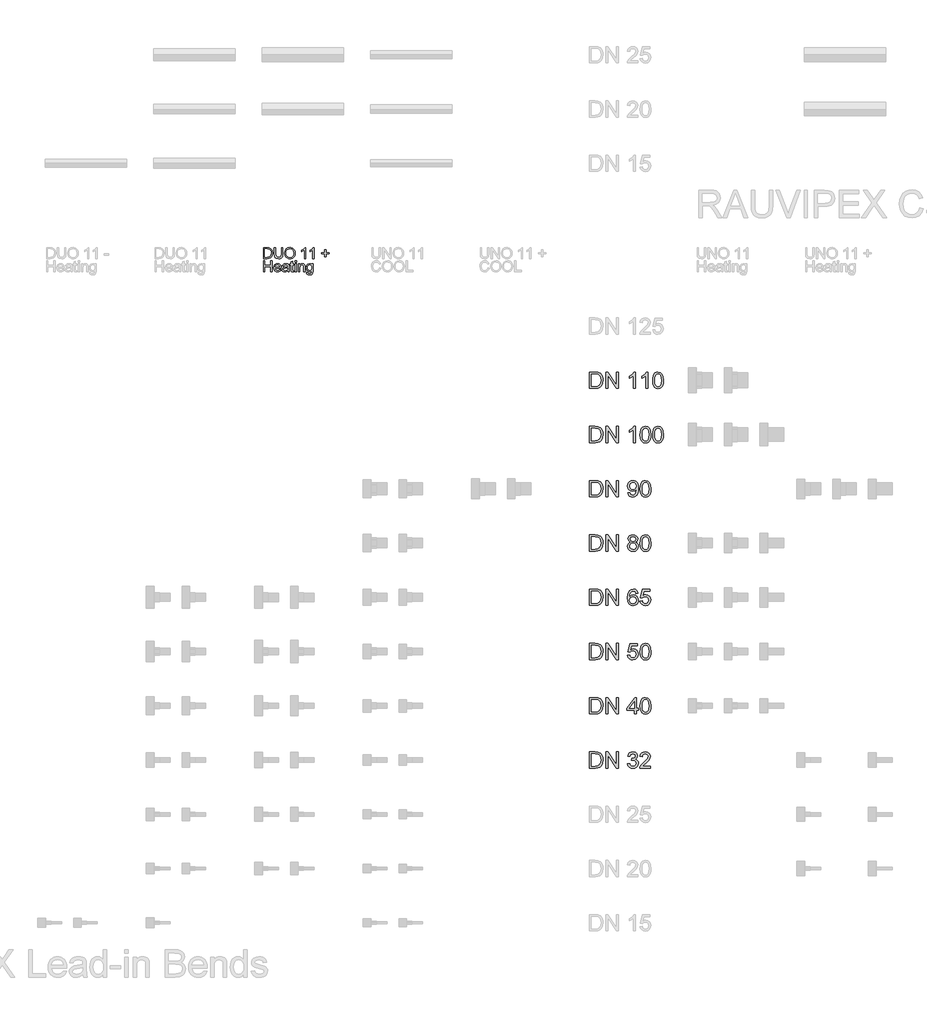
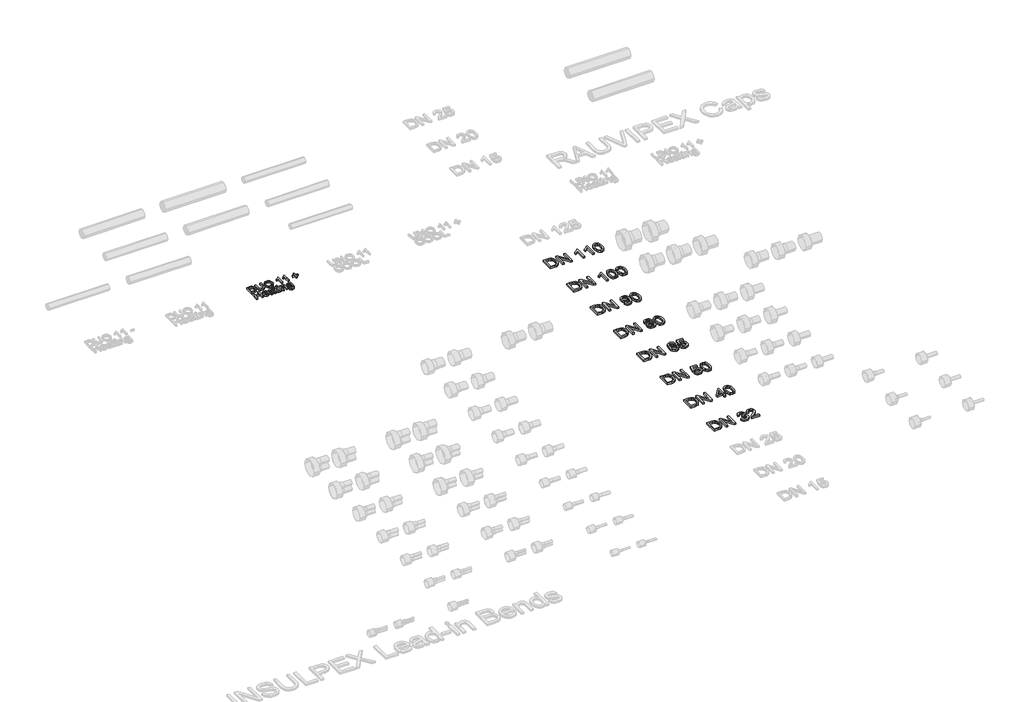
# One storey, part 25 of 44: 9 proxies.
"""IFC4 building model written with IfcOpenShell, lengths in millimetres."""

from ifc_helpers import new_model, si_unit, origin, origin_with_axes, place, context, project, spatial, polyline, outline, extrude, element, save

model = new_model("IFC4")

# Units and contexts
model_context = context("Model", 3, world=origin())
ifc_project = project(units=[si_unit("LENGTHUNIT", "METRE", prefix="MILLI")], contexts=[model_context])

# Site, building, storey
site = spatial("IfcSite", under=ifc_project)
building = spatial("IfcBuilding", under=site)
storey = spatial("IfcBuildingStorey", under=building, Name="REHAU Starting view", Elevation=0.0)

# Proxies
placement = place(None, origin())
element("IfcBuildingElementProxy", 1, Name="100", ObjectType="100", at=placement, inside=storey, context=model_context, shape_type="SweptSolid", body=[
    extrude(outline(polyline([(23010.9874089, 13121.9748178), (23010.9874089, 13222.431128), (23045.6418929, 13222.431128), (23063.5700088, 13220.9841255), (23078.3343395, 13213.7981638), (23090.2291907, 13196.6303374), (23094.1777908, 13172.7425332), (23091.5045149, 13152.4722352), (23084.6373844, 13137.8427946), (23075.4648599, 13128.7315838), (23063.4596442, 13123.6916005), (23047.3096246, 13121.9748178), (23010.9874089, 13121.9748178)]), holes=[polyline([(23023.5444477, 13134.5318566), (23045.7645202, 13134.5318566), (23061.9268025, 13136.3467411), (23071.2464797, 13141.4725636), (23078.8861625, 13153.9437632), (23081.620752, 13172.9387369), (23080.2810484, 13186.6239471), (23076.2619376, 13196.7284393), (23063.2266522, 13207.863001), (23045.4211637, 13209.8740892), (23023.5444477, 13209.8740892), (23023.5444477, 13134.5318566)])]), origin_with_axes(), (0.0, 0.0, 1.0), 20.0),
    extrude(outline(polyline([(23177.3681726, 13222.431128), (23189.9252114, 13222.431128), (23189.9252114, 13164.477451), (23186.5161716, 13140.4547567), (23174.2289129, 13125.9847316), (23163.9650053, 13121.8000739), (23150.9297199, 13120.405188), (23127.9861461, 13125.2612303), (23120.3464634, 13131.2055902), (23115.2574291, 13139.3265853), (23111.4437191, 13164.477451), (23111.4437191, 13222.431128), (23124.0007578, 13222.431128), (23124.0007578, 13164.9189094), (23126.4778299, 13145.7767829), (23134.9881668, 13136.2976902), (23149.7524975, 13132.9622268), (23162.5241341, 13134.6115644), (23171.0160768, 13139.5595772), (23175.7801487, 13149.1980855), (23177.3681726, 13164.9189094), (23177.3681726, 13222.431128)])), origin_with_axes(), (0.0, 0.0, 1.0), 20.0),
    extrude(outline(polyline([(23207.1911397, 13170.8785977), (23210.5388658, 13193.0925389), (23220.5820443, 13209.8986147), (23235.9165921, 13220.4752221), (23255.1384264, 13224.0007578), (23268.3147332, 13222.3452889), (23280.1298766, 13217.3788819), (23289.9400631, 13209.4510249), (23297.1014993, 13198.9112058), (23301.479295, 13186.2683279), (23302.9385603, 13172.0312947), (23301.402653, 13157.6041891), (23296.794931, 13144.7835015), (23289.369846, 13134.2252883), (23279.3818499, 13126.5856055), (23267.667874, 13121.9502924), (23255.06485, 13120.405188), (23241.6862081, 13122.1127736), (23229.8036197, 13127.2355304), (23220.0179586, 13135.3105402), (23212.9300988, 13145.8748848), (23207.1911397, 13170.8785977)]), holes=[polyline([(23219.7481785, 13170.7559704), (23222.2589731, 13155.0412778), (23229.7913569, 13143.0667189), (23241.1129253, 13135.4883498), (23254.9912736, 13132.9622268), (23269.071957, 13135.5128753), (23280.4119195, 13143.1648208), (23287.889121, 13155.5072617), (23290.3815215, 13172.1293965), (23286.1140904, 13192.8534156), (23273.6428907, 13206.575414), (23255.2120028, 13211.4437191), (23241.7046022, 13209.0984714), (23230.2205526, 13202.0627282), (23222.366272, 13189.5455433), (23219.7481785, 13170.7559704)])]), origin_with_axes(), (0.0, 0.0, 1.0), 20.0),
    extrude(outline(polyline([(23401.8252406, 13121.9748178), (23389.2682018, 13121.9748178), (23389.2682018, 13200.2601064), (23377.3733507, 13191.7865578), (23364.1541243, 13185.4467247), (23364.1541243, 13197.3170505), (23382.5604868, 13209.0647488), (23393.7318367, 13222.431128), (23401.8252406, 13222.431128), (23401.8252406, 13121.9748178)])), origin_with_axes(), (0.0, 0.0, 1.0), 20.0),
    extrude(outline(polyline([(23478.7371031, 13121.9748178), (23466.1800643, 13121.9748178), (23466.1800643, 13200.2601064), (23454.2852131, 13191.7865578), (23441.0659868, 13185.4467247), (23441.0659868, 13197.3170505), (23459.4723492, 13209.0647488), (23470.6436992, 13222.431128), (23478.7371031, 13222.431128), (23478.7371031, 13121.9748178)])), origin_with_axes(), (0.0, 0.0, 1.0), 20.0),
    extrude(outline(polyline([(23576.0541535, 13137.6711163), (23576.0541535, 13164.3548237), (23549.3704461, 13164.3548237), (23549.3704461, 13176.9118625), (23576.0541535, 13176.9118625), (23576.0541535, 13203.5955698), (23588.6111923, 13203.5955698), (23588.6111923, 13176.9118625), (23615.2948997, 13176.9118625), (23615.2948997, 13164.3548237), (23588.6111923, 13164.3548237), (23588.6111923, 13137.6711163), (23576.0541535, 13137.6711163)])), origin_with_axes(), (0.0, 0.0, 1.0), 20.0),
    extrude(outline(polyline([(23010.9874089, 13000.0), (23010.9874089, 13100.4563101), (23023.5444477, 13100.4563101), (23023.5444477, 13059.6459342), (23076.9118625, 13059.6459342), (23076.9118625, 13100.4563101), (23089.4689012, 13100.4563101), (23089.4689012, 13000.0), (23076.9118625, 13000.0), (23076.9118625, 13047.0888954), (23023.5444477, 13047.0888954), (23023.5444477, 13000.0), (23010.9874089, 13000.0)])), origin_with_axes(), (0.0, 0.0, 1.0), 20.0),
    extrude(outline(polyline([(23161.5247213, 13021.9748178), (23173.8365055, 13020.405188), (23169.4004617, 13011.1284304), (23162.321799, 13004.1938547), (23152.7599328, 12999.8712413), (23140.8742787, 12998.4303702), (23126.1406048, 13000.9166393), (23114.803708, 13008.3754468), (23107.5748268, 13020.3224146), (23105.1651997, 13036.2731647), (23107.5993522, 13052.7604095), (23114.9018098, 13065.0905877), (23126.0854225, 13072.7793214), (23140.1630402, 13075.3422326), (23153.8022651, 13072.7854527), (23164.7007692, 13065.1151131), (23171.846877, 13052.8094604), (23174.2289129, 13036.3467411), (23174.1553365, 13032.9622268), (23117.7222385, 13032.9622268), (23119.8958079, 13023.5628418), (23124.9449883, 13016.6527916), (23132.2321175, 13012.4037546), (23141.1195333, 13010.9874089), (23153.4313175, 13013.6116338), (23161.5247213, 13021.9748178)]), holes=[polyline([(23117.7222385, 13045.5192655), (23161.6718741, 13045.5192655), (23156.6441535, 13056.8990819), (23149.3233018, 13061.3136659), (23140.1139892, 13062.7851938), (23124.6506827, 13058.088567), (23119.7854433, 13052.5979283), (23117.7222385, 13045.5192655)])]), origin_with_axes(), (0.0, 0.0, 1.0), 20.0),
    extrude(outline(polyline([(23233.8748471, 13009.4177791), (23221.697953, 13000.9074423), (23208.2457347, 12998.4303702), (23197.7519008, 12999.9202922), (23190.0110505, 13004.3900585), (23185.2377816, 13011.1774813), (23183.646692, 13019.6203731), (23186.0501877, 13029.5531869), (23192.3654953, 13036.7636741), (23201.157875, 13040.8839524), (23212.0226566, 13042.7724133), (23233.8012707, 13047.0888954), (23233.8748471, 13049.8847985), (23230.4167563, 13059.1554248), (23216.5353424, 13062.7851938), (23203.8311508, 13060.3694354), (23197.7733606, 13051.7977849), (23185.2163218, 13053.3674148), (23190.6487126, 13065.6301479), (23201.5870706, 13072.8161096), (23218.1540231, 13075.3422326), (23233.372075, 13073.1104152), (23241.968251, 13067.5063461), (23245.8187492, 13058.9837466), (23246.4318858, 13047.9963376), (23246.4318858, 13032.3736156), (23247.069548, 13010.5582133), (23249.5711455, 13000.0), (23237.0141068, 13000.0), (23233.8748471, 13009.4177791)]), holes=[polyline([(23233.8748471, 13034.5318566), (23213.6168119, 13030.6813584), (23202.8133439, 13028.6457447), (23197.9205134, 13025.3348067), (23196.2037308, 13020.5032899), (23199.9438644, 13013.7097357), (23210.9190106, 13010.9874089), (23223.6232021, 13013.9917785), (23231.8147079, 13021.2635793), (23233.8012707, 13030.975664), (23233.8748471, 13034.5318566)])]), origin_with_axes(), (0.0, 0.0, 1.0), 20.0),
    extrude(outline(polyline([(23290.3815215, 13010.4723741), (23291.9511514, 12999.632118), (23282.5578978, 12998.4303702), (23272.0364727, 13000.5150348), (23266.7880229, 13005.9842138), (23265.267444, 13020.2335097), (23265.267444, 13061.215564), (23255.8496649, 13061.215564), (23255.8496649, 13073.7726028), (23265.267444, 13073.7726028), (23265.267444, 13091.7007187), (23277.8244828, 13099.082884), (23277.8244828, 13073.7726028), (23290.3815215, 13073.7726028), (23290.3815215, 13061.215564), (23277.8244828, 13061.215564), (23277.8244828, 13020.6013917), (23278.4866703, 13014.1266686), (23280.6326487, 13011.8335375), (23284.9123425, 13010.9874089), (23290.3815215, 13010.4723741)])), origin_with_axes(), (0.0, 0.0, 1.0), 20.0),
    extrude(outline(polyline([(23302.9385603, 13087.8992714), (23302.9385603, 13100.4563101), (23315.4955991, 13100.4563101), (23315.4955991, 13087.8992714), (23302.9385603, 13087.8992714)])), origin_with_axes(), (0.0, 0.0, 1.0), 20.0),
    extrude(outline(polyline([(23302.9385603, 13000.0), (23302.9385603, 13073.7726028), (23315.4955991, 13073.7726028), (23315.4955991, 13000.0), (23302.9385603, 13000.0)])), origin_with_axes(), (0.0, 0.0, 1.0), 20.0),
    extrude(outline(polyline([(23334.3311572, 13000.0), (23334.3311572, 13073.7726028), (23346.888196, 13073.7726028), (23346.888196, 13063.4719069), (23356.4899161, 13072.3746512), (23369.5987778, 13075.3422326), (23381.4568408, 13072.9509996), (23389.5502447, 13066.6724803), (23393.3149038, 13057.4386422), (23393.9770914, 13045.2985363), (23393.9770914, 13000.0), (23381.4200526, 13000.0), (23381.4200526, 13043.6062792), (23379.9730501, 13054.7163154), (23374.8594904, 13060.5901646), (23366.2387889, 13062.7851938), (23352.6148924, 13057.8555751), (23348.3198701, 13050.712533), (23346.888196, 13039.1426443), (23346.888196, 13000.0), (23334.3311572, 13000.0)])), origin_with_axes(), (0.0, 0.0, 1.0), 20.0),
    extrude(outline(polyline([(23408.10376, 12993.7214806), (23420.6607988, 12992.1518508), (23424.7320262, 12985.5299749), (23436.9211829, 12982.7340717), (23449.7725273, 12985.8978569), (23455.9038939, 12994.7760757), (23456.7622852, 13009.4177791), (23447.9208546, 13002.3544448), (23437.1419121, 13000.0), (23424.1955316, 13002.7407209), (23414.5416949, 13010.9628835), (23408.5360213, 13023.0171502), (23406.5341301, 13037.2541834), (23410.127111, 13056.7151409), (23420.5259087, 13070.4861903), (23436.5287755, 13075.3422326), (23447.7307822, 13072.5953804), (23456.7622852, 13064.3548237), (23456.7622852, 13073.7726028), (23469.319324, 13073.7726028), (23469.319324, 13010.0799667), (23465.8857587, 12985.6893904), (23455.0087144, 12974.3463622), (23436.6759283, 12970.1770329), (23424.9926092, 12971.6454952), (23415.7924937, 12976.0508821), (23409.8910533, 12983.4054563), (23408.10376, 12993.7214806)]), holes=[polyline([(23419.0911689, 13038.1125747), (23420.4308725, 13026.5948026), (23424.4499833, 13018.6761426), (23430.4924451, 13014.0868147), (23437.9022016, 13012.5570388), (23445.2567758, 13014.0776177), (23451.3298944, 13018.6393544), (23455.4041875, 13026.4568468), (23456.7622852, 13037.7446927), (23455.3643336, 13048.6309341), (23451.1704789, 13056.4698863), (23445.0084555, 13061.2063669), (23437.7059979, 13062.7851938), (23430.5353646, 13061.2308924), (23424.5235597, 13056.5679881), (23420.4492666, 13048.8455319), (23419.0911689, 13038.1125747)])]), origin_with_axes(), (0.0, 0.0, 1.0), 20.0),
])
element("IfcBuildingElementProxy", 2, Name="150", ObjectType="150", at=placement, inside=storey, context=model_context, shape_type="SweptSolid", body=[
    extrude(outline(polyline([(26016.4811134, 8425.0), (26016.4811134, 8575.6844652), (26068.4628393, 8575.6844652), (26095.3550131, 8573.5139615), (26117.5015093, 8562.735019), (26127.9217668, 8551.2571007), (26135.343786, 8536.9832793), (26139.7859611, 8520.1894663), (26141.2666861, 8501.151573), (26137.2567724, 8470.7461261), (26126.9560765, 8448.8019651), (26113.1972899, 8435.135149), (26095.1894663, 8427.575174), (26070.9644369, 8425.0), (26016.4811134, 8425.0)]), holes=[polyline([(26035.3166715, 8443.8355582), (26068.6467803, 8443.8355582), (26092.8902038, 8446.5578849), (26106.8697196, 8454.2466186), (26118.3292437, 8472.9534181), (26122.431128, 8501.4458786), (26120.4215726, 8521.9736939), (26114.3929064, 8537.1304321), (26105.4855636, 8547.5414926), (26094.8399784, 8553.8322747), (26068.1317455, 8556.8489071), (26035.3166715, 8556.8489071), (26035.3166715, 8443.8355582)])]), origin_with_axes(), (0.0, 0.0, 1.0), 20.0),
    extrude(outline(polyline([(26167.1655786, 8425.0), (26167.1655786, 8575.6844652), (26187.3255119, 8575.6844652), (26266.0522589, 8456.3067578), (26266.0522589, 8575.6844652), (26284.8878171, 8575.6844652), (26284.8878171, 8425.0), (26264.7278837, 8425.0), (26186.0011368, 8544.4144956), (26186.0011368, 8425.0), (26167.1655786, 8425.0)])), origin_with_axes(), (0.0, 0.0, 1.0), 20.0),
    extrude(outline(polyline([(26369.6478288, 8465.0255611), (26388.4833869, 8467.3800058), (26392.7002343, 8455.5434026), (26398.8760533, 8447.5511663), (26407.3143465, 8442.9986266), (26418.3186167, 8441.4811134), (26431.2312747, 8443.5688437), (26441.2008768, 8449.8320347), (26447.5744324, 8459.1762374), (26449.6989509, 8470.5070028), (26447.5928265, 8481.2629526), (26441.2744532, 8489.9863544), (26431.7095213, 8495.7667003), (26419.8637211, 8497.6934822), (26406.6567575, 8495.6333431), (26408.7536848, 8514.4689012), (26411.7703172, 8514.248172), (26433.1442611, 8519.6560374), (26440.2627777, 8526.5170366), (26442.6356166, 8536.2843035), (26440.9157683, 8544.4190942), (26435.7562233, 8551.0179774), (26427.8835486, 8555.3911747), (26418.0243111, 8556.8489071), (26408.1466795, 8555.3773791), (26400.0716698, 8550.9627951), (26394.1763608, 8543.6051552), (26390.8378317, 8533.3044594), (26372.0022735, 8535.6589041), (26377.5480946, 8552.5722789), (26387.4165291, 8565.1998284), (26400.9177983, 8573.063306), (26417.3621235, 8575.6844652), (26440.0788367, 8570.5157232), (26455.9713389, 8556.3890546), (26461.4711747, 8537.3879495), (26456.2472504, 8520.0239194), (26440.7962066, 8507.5527197), (26452.5868246, 8502.7886479), (26461.324022, 8494.6768499), (26466.7318873, 8483.6587841), (26468.5345091, 8470.175909), (26464.9292655, 8451.8185974), (26454.1135348, 8436.4779182), (26437.7887713, 8426.103646), (26417.6564291, 8422.6455552), (26399.4462704, 8425.5978082), (26384.620626, 8434.4545673), (26374.310733, 8448.0018217), (26369.6478288, 8465.0255611)])), origin_with_axes(), (0.0, 0.0, 1.0), 20.0),
    extrude(outline(polyline([(26581.547858, 8443.8355582), (26581.547858, 8425.0), (26482.6611777, 8425.0), (26484.6845286, 8437.9862344), (26496.1256587, 8457.9806209), (26519.7068946, 8479.8144173), (26552.227663, 8511.1947515), (26558.325307, 8522.0104821), (26560.3578551, 8532.5319072), (26558.4402702, 8541.9634818), (26552.6875155, 8549.8039669), (26543.844552, 8555.087672), (26532.6563408, 8556.8489071), (26520.9071096, 8555.1290587), (26511.7790376, 8549.9695138), (26505.8883271, 8541.7749423), (26503.8511806, 8530.9500146), (26485.0156224, 8533.3044594), (26489.5819577, 8551.5238152), (26499.4549908, 8564.8319464), (26514.1196868, 8572.9713355), (26533.061011, 8575.6844652), (26552.140291, 8572.6678329), (26566.7773959, 8563.6179358), (26576.0894089, 8550.0982725), (26579.1934132, 8533.6723414), (26575.8456871, 8515.8116705), (26564.7172567, 8497.3439944), (26537.7331123, 8471.5370724), (26516.0648628, 8453.4188841), (26507.5667887, 8443.8355582), (26581.547858, 8443.8355582)])), origin_with_axes(), (0.0, 0.0, 1.0), 20.0),
])
element("IfcBuildingElementProxy", 3, Name="150", ObjectType="150", at=placement, inside=storey, context=model_context, shape_type="SweptSolid", body=[
    extrude(outline(polyline([(26016.4811134, 8925.0), (26016.4811134, 9075.6844652), (26068.4628393, 9075.6844652), (26095.3550131, 9073.5139615), (26117.5015093, 9062.735019), (26127.9217668, 9051.2571007), (26135.343786, 9036.9832793), (26139.7859611, 9020.1894663), (26141.2666861, 9001.151573), (26137.2567724, 8970.7461261), (26126.9560765, 8948.8019651), (26113.1972899, 8935.135149), (26095.1894663, 8927.575174), (26070.9644369, 8925.0), (26016.4811134, 8925.0)]), holes=[polyline([(26035.3166715, 8943.8355582), (26068.6467803, 8943.8355582), (26092.8902038, 8946.5578849), (26106.8697196, 8954.2466186), (26118.3292437, 8972.9534181), (26122.431128, 9001.4458786), (26120.4215726, 9021.9736939), (26114.3929064, 9037.1304321), (26105.4855636, 9047.5414926), (26094.8399784, 9053.8322747), (26068.1317455, 9056.8489071), (26035.3166715, 9056.8489071), (26035.3166715, 8943.8355582)])]), origin_with_axes(), (0.0, 0.0, 1.0), 20.0),
    extrude(outline(polyline([(26167.1655786, 8925.0), (26167.1655786, 9075.6844652), (26187.3255119, 9075.6844652), (26266.0522589, 8956.3067578), (26266.0522589, 9075.6844652), (26284.8878171, 9075.6844652), (26284.8878171, 8925.0), (26264.7278837, 8925.0), (26186.0011368, 9044.4144956), (26186.0011368, 8925.0), (26167.1655786, 8925.0)])), origin_with_axes(), (0.0, 0.0, 1.0), 20.0),
    extrude(outline(polyline([(26430.8633928, 8925.0), (26430.8633928, 8960.3166715), (26362.5844944, 8960.3166715), (26362.5844944, 8979.1522297), (26435.5722823, 9073.3300205), (26449.6989509, 9073.3300205), (26449.6989509, 8979.1522297), (26468.5345091, 8979.1522297), (26468.5345091, 8960.3166715), (26449.6989509, 8960.3166715), (26449.6989509, 8925.0), (26430.8633928, 8925.0)]), holes=[polyline([(26430.8633928, 8979.1522297), (26430.8633928, 9037.3511613), (26385.7610601, 8979.1522297), (26430.8633928, 8979.1522297)])]), origin_with_axes(), (0.0, 0.0, 1.0), 20.0),
    extrude(outline(polyline([(26485.0156224, 8999.128222), (26486.3997784, 9023.2474853), (26490.5522465, 9042.4831152), (26497.4316398, 9057.1294171), (26506.9965717, 9067.4806967), (26519.31602, 9073.6335231), (26534.4589626, 9075.6844652), (26556.4583059, 9070.8284229), (26571.6518323, 9056.830513), (26580.4810002, 9034.5368641), (26583.9023027, 8999.128222), (26582.5319423, 8975.1469145), (26578.420861, 8955.9572699), (26571.5828544, 8941.2971724), (26562.0317181, 8930.904506), (26549.6846787, 8924.7102929), (26534.4589626, 8922.6455552), (26514.8876404, 8926.2324047), (26500.0252078, 8936.992953), (26488.7680188, 8962.4779783), (26485.0156224, 8999.128222)]), holes=[polyline([(26503.8511806, 8999.1650102), (26506.0584726, 8969.536714), (26512.6803485, 8952.3888145), (26522.5395859, 8944.2080387), (26534.4589626, 8941.4811134), (26546.3783392, 8944.2172357), (26556.2375767, 8952.4256027), (26562.8594526, 8969.5826993), (26565.0667446, 8999.1650102), (26562.933029, 9028.1265203), (26556.5318823, 9045.407777), (26546.6910389, 9053.9886246), (26534.2382334, 9056.8489071), (26522.4476155, 9054.3289154), (26512.9746541, 9046.7689404), (26506.132049, 9028.4116288), (26503.8511806, 8999.1650102)])]), origin_with_axes(), (0.0, 0.0, 1.0), 20.0),
])
element("IfcBuildingElementProxy", 4, Name="150", ObjectType="150", at=placement, inside=storey, context=model_context, shape_type="SweptSolid", body=[
    extrude(outline(polyline([(26016.4811134, 9425.0), (26016.4811134, 9575.6844652), (26068.4628393, 9575.6844652), (26095.3550131, 9573.5139615), (26117.5015093, 9562.735019), (26127.9217668, 9551.2571007), (26135.343786, 9536.9832793), (26139.7859611, 9520.1894663), (26141.2666861, 9501.151573), (26137.2567724, 9470.7461261), (26126.9560765, 9448.8019651), (26113.1972899, 9435.135149), (26095.1894663, 9427.575174), (26070.9644369, 9425.0), (26016.4811134, 9425.0)]), holes=[polyline([(26035.3166715, 9443.8355582), (26068.6467803, 9443.8355582), (26092.8902038, 9446.5578849), (26106.8697196, 9454.2466186), (26118.3292437, 9472.9534181), (26122.431128, 9501.4458786), (26120.4215726, 9521.9736939), (26114.3929064, 9537.1304321), (26105.4855636, 9547.5414926), (26094.8399784, 9553.8322747), (26068.1317455, 9556.8489071), (26035.3166715, 9556.8489071), (26035.3166715, 9443.8355582)])]), origin_with_axes(), (0.0, 0.0, 1.0), 20.0),
    extrude(outline(polyline([(26167.1655786, 9425.0), (26167.1655786, 9575.6844652), (26187.3255119, 9575.6844652), (26266.0522589, 9456.3067578), (26266.0522589, 9575.6844652), (26284.8878171, 9575.6844652), (26284.8878171, 9425.0), (26264.7278837, 9425.0), (26186.0011368, 9544.4144956), (26186.0011368, 9425.0), (26167.1655786, 9425.0)])), origin_with_axes(), (0.0, 0.0, 1.0), 20.0),
    extrude(outline(polyline([(26369.6478288, 9465.0255611), (26388.4833869, 9467.3800058), (26391.9414777, 9456.072233), (26397.9747424, 9447.9742306), (26406.5555899, 9443.1043927), (26417.6564291, 9441.4811134), (26431.1576983, 9443.7389891), (26441.2744532, 9450.5126164), (26447.5928265, 9461.0202459), (26449.6989509, 9474.4801284), (26447.7261837, 9487.1536631), (26441.8078821, 9496.8473537), (26431.8980609, 9503.00018), (26417.9507347, 9505.0511222), (26401.414439, 9501.7769724), (26390.8378317, 9493.2788983), (26372.0022735, 9495.6333431), (26388.4833869, 9573.3300205), (26461.4711747, 9573.3300205), (26461.4711747, 9554.4944623), (26403.7137015, 9554.4944623), (26395.6570858, 9512.9973732), (26409.1123698, 9521.1643535), (26423.2114473, 9523.8866803), (26440.8100022, 9520.511363), (26455.4195159, 9510.3854111), (26465.2557608, 9494.9527614), (26468.5345091, 9475.6573507), (26465.582256, 9456.8217926), (26456.725497, 9440.7085612), (26439.766137, 9427.1613067), (26417.5828527, 9422.6455552), (26399.0829869, 9425.5472245), (26384.3447145, 9434.2522322), (26374.2417552, 9447.7489029), (26369.6478288, 9465.0255611)])), origin_with_axes(), (0.0, 0.0, 1.0), 20.0),
    extrude(outline(polyline([(26485.0156224, 9499.128222), (26486.3997784, 9523.2474853), (26490.5522465, 9542.4831152), (26497.4316398, 9557.1294171), (26506.9965717, 9567.4806967), (26519.31602, 9573.6335231), (26534.4589626, 9575.6844652), (26556.4583059, 9570.8284229), (26571.6518323, 9556.830513), (26580.4810002, 9534.5368641), (26583.9023027, 9499.128222), (26582.5319423, 9475.1469145), (26578.420861, 9455.9572699), (26571.5828544, 9441.2971724), (26562.0317181, 9430.904506), (26549.6846787, 9424.7102929), (26534.4589626, 9422.6455552), (26514.8876404, 9426.2324047), (26500.0252078, 9436.992953), (26488.7680188, 9462.4779783), (26485.0156224, 9499.128222)]), holes=[polyline([(26503.8511806, 9499.1650102), (26506.0584726, 9469.536714), (26512.6803485, 9452.3888145), (26522.5395859, 9444.2080387), (26534.4589626, 9441.4811134), (26546.3783392, 9444.2172357), (26556.2375767, 9452.4256027), (26562.8594526, 9469.5826993), (26565.0667446, 9499.1650102), (26562.933029, 9528.1265203), (26556.5318823, 9545.407777), (26546.6910389, 9553.9886246), (26534.2382334, 9556.8489071), (26522.4476155, 9554.3289154), (26512.9746541, 9546.7689404), (26506.132049, 9528.4116288), (26503.8511806, 9499.1650102)])]), origin_with_axes(), (0.0, 0.0, 1.0), 20.0),
])
element("IfcBuildingElementProxy", 5, Name="150", ObjectType="150", at=placement, inside=storey, context=model_context, shape_type="SweptSolid", body=[
    extrude(outline(polyline([(26016.4811134, 9925.0), (26016.4811134, 10075.6844652), (26068.4628393, 10075.6844652), (26095.3550131, 10073.5139615), (26117.5015093, 10062.735019), (26127.9217668, 10051.2571007), (26135.343786, 10036.9832793), (26139.7859611, 10020.1894663), (26141.2666861, 10001.151573), (26137.2567724, 9970.7461261), (26126.9560765, 9948.8019651), (26113.1972899, 9935.135149), (26095.1894663, 9927.575174), (26070.9644369, 9925.0), (26016.4811134, 9925.0)]), holes=[polyline([(26035.3166715, 9943.8355582), (26068.6467803, 9943.8355582), (26092.8902038, 9946.5578849), (26106.8697196, 9954.2466186), (26118.3292437, 9972.9534181), (26122.431128, 10001.4458786), (26120.4215726, 10021.9736939), (26114.3929064, 10037.1304321), (26105.4855636, 10047.5414926), (26094.8399784, 10053.8322747), (26068.1317455, 10056.8489071), (26035.3166715, 10056.8489071), (26035.3166715, 9943.8355582)])]), origin_with_axes(), (0.0, 0.0, 1.0), 20.0),
    extrude(outline(polyline([(26167.1655786, 9925.0), (26167.1655786, 10075.6844652), (26187.3255119, 10075.6844652), (26266.0522589, 9956.3067578), (26266.0522589, 10075.6844652), (26284.8878171, 10075.6844652), (26284.8878171, 9925.0), (26264.7278837, 9925.0), (26186.0011368, 10044.4144956), (26186.0011368, 9925.0), (26167.1655786, 9925.0)])), origin_with_axes(), (0.0, 0.0, 1.0), 20.0),
    extrude(outline(polyline([(26466.1800643, 10035.6589041), (26447.3445061, 10033.3044594), (26440.2075954, 10049.0130206), (26431.6635361, 10054.8899354), (26421.3352491, 10056.8489071), (26404.3391009, 10052.2871703), (26391.4816252, 10035.1622635), (26387.5774775, 10021.1321639), (26386.1289421, 10001.5930314), (26402.7388142, 10016.6210109), (26423.3218118, 10021.5322355), (26440.7226302, 10018.1753123), (26455.3275454, 10008.1045427), (26465.2327682, 9992.7178783), (26468.5345091, 9973.4132706), (26466.9802076, 9959.9257969), (26462.3173033, 9947.4224076), (26454.9320723, 9936.8182091), (26445.2107906, 9929.0283078), (26433.5949166, 9924.2412434), (26420.5259087, 9922.6455552), (26399.1565633, 9926.8761982), (26382.1374225, 9939.568127), (26371.0043936, 9961.9721405), (26367.293384, 9995.3390375), (26371.4136623, 10032.8538039), (26383.7744974, 10058.504376), (26400.6510839, 10071.3894429), (26422.5124715, 10075.6844652), (26439.0395701, 10073.0265178), (26452.2741249, 10065.0526756), (26461.5447511, 10052.3883379), (26466.1800643, 10035.6589041)]), holes=[polyline([(26386.1289421, 9973.7075762), (26390.4883438, 9957.3920097), (26402.0766266, 9945.5462094), (26419.0543807, 9941.4811134), (26431.4841936, 9943.5872378), (26441.2560591, 9949.9056111), (26447.588228, 9959.8384249), (26449.6989509, 9972.7878712), (26447.6158191, 9985.2176841), (26441.3664237, 9994.695244), (26431.4290113, 10000.696319), (26418.2818285, 10002.6966774), (26405.8704097, 10000.696319), (26395.4915389, 9994.695244), (26388.4695913, 9985.4476103), (26386.1289421, 9973.7075762)])]), origin_with_axes(), (0.0, 0.0, 1.0), 20.0),
    extrude(outline(polyline([(26485.0156224, 9965.0255611), (26503.8511806, 9967.3800058), (26507.3092713, 9956.072233), (26513.3425361, 9947.9742306), (26521.9233836, 9943.1043927), (26533.0242228, 9941.4811134), (26546.525492, 9943.7389891), (26556.6422469, 9950.5126164), (26562.9606202, 9961.0202459), (26565.0667446, 9974.4801284), (26563.0939774, 9987.1536631), (26557.1756758, 9996.8473537), (26547.2658545, 10003.00018), (26533.3185284, 10005.0511222), (26516.7822327, 10001.7769724), (26506.2056254, 9993.2788983), (26487.3700672, 9995.6333431), (26503.8511806, 10073.3300205), (26576.8389684, 10073.3300205), (26576.8389684, 10054.4944623), (26519.0814952, 10054.4944623), (26511.0248795, 10012.9973732), (26524.4801635, 10021.1643535), (26538.5792409, 10023.8866803), (26556.1777959, 10020.511363), (26570.7873096, 10010.3854111), (26580.6235545, 9994.9527614), (26583.9023027, 9975.6573507), (26580.9500497, 9956.8217926), (26572.0932907, 9940.7085612), (26555.1339307, 9927.1613067), (26532.9506464, 9922.6455552), (26514.4507806, 9925.5472245), (26499.7125081, 9934.2522322), (26489.6095489, 9947.7489029), (26485.0156224, 9965.0255611)])), origin_with_axes(), (0.0, 0.0, 1.0), 20.0),
])
element("IfcBuildingElementProxy", 6, Name="150", ObjectType="150", at=placement, inside=storey, context=model_context, shape_type="SweptSolid", body=[
    extrude(outline(polyline([(26016.4811134, 10425.0), (26016.4811134, 10575.6844652), (26068.4628393, 10575.6844652), (26095.3550131, 10573.5139615), (26117.5015093, 10562.735019), (26127.9217668, 10551.2571007), (26135.343786, 10536.9832793), (26139.7859611, 10520.1894663), (26141.2666861, 10501.151573), (26137.2567724, 10470.7461261), (26126.9560765, 10448.8019651), (26113.1972899, 10435.135149), (26095.1894663, 10427.575174), (26070.9644369, 10425.0), (26016.4811134, 10425.0)]), holes=[polyline([(26035.3166715, 10443.8355582), (26068.6467803, 10443.8355582), (26092.8902038, 10446.5578849), (26106.8697196, 10454.2466186), (26118.3292437, 10472.9534181), (26122.431128, 10501.4458786), (26120.4215726, 10521.9736939), (26114.3929064, 10537.1304321), (26105.4855636, 10547.5414926), (26094.8399784, 10553.8322747), (26068.1317455, 10556.8489071), (26035.3166715, 10556.8489071), (26035.3166715, 10443.8355582)])]), origin_with_axes(), (0.0, 0.0, 1.0), 20.0),
    extrude(outline(polyline([(26167.1655786, 10425.0), (26167.1655786, 10575.6844652), (26187.3255119, 10575.6844652), (26266.0522589, 10456.3067578), (26266.0522589, 10575.6844652), (26284.8878171, 10575.6844652), (26284.8878171, 10425.0), (26264.7278837, 10425.0), (26186.0011368, 10544.4144956), (26186.0011368, 10425.0), (26167.1655786, 10425.0)])), origin_with_axes(), (0.0, 0.0, 1.0), 20.0),
    extrude(outline(polyline([(26397.0918256, 10507.9941781), (26379.9301305, 10519.6928256), (26374.3567183, 10537.9029843), (26377.3917448, 10552.6274612), (26386.4968241, 10564.7951582), (26400.6510839, 10572.9621385), (26418.8336515, 10575.6844652), (26437.1265837, 10572.8977591), (26451.4647845, 10564.5376408), (26460.7354108, 10552.1768057), (26463.8256195, 10537.3879495), (26458.3257837, 10519.6376433), (26441.6423352, 10507.9941781), (26453.2352166, 10502.0206942), (26461.6735098, 10493.223716), (26466.8192593, 10482.0263078), (26468.5345091, 10468.8515338), (26465.1316006, 10450.8437102), (26454.9228752, 10435.9628835), (26439.1591317, 10425.9748873), (26419.0911689, 10422.6455552), (26399.0232061, 10425.9886829), (26383.2594626, 10436.0180658), (26373.0507372, 10451.0414467), (26369.6478288, 10469.3665686), (26371.4320564, 10483.0517788), (26376.7847395, 10494.3089679), (26385.4299663, 10502.7518597), (26397.0918256, 10507.9941781)]), holes=[polyline([(26393.1922764, 10537.3511613), (26394.861541, 10529.1289987), (26399.8693347, 10522.5623051), (26408.0685046, 10518.2580858), (26419.3118981, 10516.823346), (26430.2931757, 10518.2488887), (26438.3681855, 10522.5255169), (26443.3345924, 10528.8714813), (26444.9900614, 10536.5050327), (26443.2794101, 10544.4282912), (26438.1474563, 10550.9811892), (26429.9620819, 10555.3819776), (26419.0911689, 10556.8489071), (26408.1512781, 10555.4141673), (26399.9796993, 10551.1099479), (26394.8891321, 10544.8007717), (26393.1922764, 10537.3511613)]), polyline([(26388.4833869, 10470.0287562), (26391.628778, 10455.8469053), (26402.7572083, 10445.2335097), (26419.2383217, 10441.4811134), (26432.0590092, 10443.4538806), (26441.6791234, 10449.3721822), (26447.693994, 10458.3347073), (26449.6989509, 10469.440145), (26447.6296147, 10480.7341223), (26441.421606, 10489.8943839), (26431.5807626, 10495.9644369), (26418.6129223, 10497.9877878), (26405.9715773, 10495.992028), (26396.4480321, 10490.0047485), (26390.4745482, 10481.0192308), (26388.4833869, 10470.0287562)])]), origin_with_axes(), (0.0, 0.0, 1.0), 20.0),
    extrude(outline(polyline([(26485.0156224, 10499.128222), (26486.3997784, 10523.2474853), (26490.5522465, 10542.4831152), (26497.4316398, 10557.1294171), (26506.9965717, 10567.4806967), (26519.31602, 10573.6335231), (26534.4589626, 10575.6844652), (26556.4583059, 10570.8284229), (26571.6518323, 10556.830513), (26580.4810002, 10534.5368641), (26583.9023027, 10499.128222), (26582.5319423, 10475.1469145), (26578.420861, 10455.9572699), (26571.5828544, 10441.2971724), (26562.0317181, 10430.904506), (26549.6846787, 10424.7102929), (26534.4589626, 10422.6455552), (26514.8876404, 10426.2324047), (26500.0252078, 10436.992953), (26488.7680188, 10462.4779783), (26485.0156224, 10499.128222)]), holes=[polyline([(26503.8511806, 10499.1650102), (26506.0584726, 10469.536714), (26512.6803485, 10452.3888145), (26522.5395859, 10444.2080387), (26534.4589626, 10441.4811134), (26546.3783392, 10444.2172357), (26556.2375767, 10452.4256027), (26562.8594526, 10469.5826993), (26565.0667446, 10499.1650102), (26562.933029, 10528.1265203), (26556.5318823, 10545.407777), (26546.6910389, 10553.9886246), (26534.2382334, 10556.8489071), (26522.4476155, 10554.3289154), (26512.9746541, 10546.7689404), (26506.132049, 10528.4116288), (26503.8511806, 10499.1650102)])]), origin_with_axes(), (0.0, 0.0, 1.0), 20.0),
])
element("IfcBuildingElementProxy", 7, Name="150", ObjectType="150", at=placement, inside=storey, context=model_context, shape_type="SweptSolid", body=[
    extrude(outline(polyline([(26016.4811134, 10925.0), (26016.4811134, 11075.6844652), (26068.4628393, 11075.6844652), (26095.3550131, 11073.5139615), (26117.5015093, 11062.735019), (26127.9217668, 11051.2571007), (26135.343786, 11036.9832793), (26139.7859611, 11020.1894663), (26141.2666861, 11001.151573), (26137.2567724, 10970.7461261), (26126.9560765, 10948.8019651), (26113.1972899, 10935.135149), (26095.1894663, 10927.575174), (26070.9644369, 10925.0), (26016.4811134, 10925.0)]), holes=[polyline([(26035.3166715, 10943.8355582), (26068.6467803, 10943.8355582), (26092.8902038, 10946.5578849), (26106.8697196, 10954.2466186), (26118.3292437, 10972.9534181), (26122.431128, 11001.4458786), (26120.4215726, 11021.9736939), (26114.3929064, 11037.1304321), (26105.4855636, 11047.5414926), (26094.8399784, 11053.8322747), (26068.1317455, 11056.8489071), (26035.3166715, 11056.8489071), (26035.3166715, 10943.8355582)])]), origin_with_axes(), (0.0, 0.0, 1.0), 20.0),
    extrude(outline(polyline([(26167.1655786, 10925.0), (26167.1655786, 11075.6844652), (26187.3255119, 11075.6844652), (26266.0522589, 10956.3067578), (26266.0522589, 11075.6844652), (26284.8878171, 11075.6844652), (26284.8878171, 10925.0), (26264.7278837, 10925.0), (26186.0011368, 11044.4144956), (26186.0011368, 10925.0), (26167.1655786, 10925.0)])), origin_with_axes(), (0.0, 0.0, 1.0), 20.0),
    extrude(outline(polyline([(26372.0022735, 10962.6711163), (26390.8378317, 10965.0255611), (26394.0567991, 10954.3339906), (26399.2991176, 10947.0545256), (26406.4360283, 10942.8744664), (26415.3387726, 10941.4811134), (26430.5874813, 10945.0679628), (26440.9249653, 10954.6512888), (26447.0869887, 10971.0220376), (26449.8093155, 10992.8742281), (26449.6989509, 10996.5530481), (26434.6341832, 10982.2792266), (26413.9776092, 10976.7977849), (26396.8021185, 10980.1455111), (26382.5053045, 10990.1886895), (26372.8621977, 11005.7041127), (26369.6478288, 11025.4685729), (26373.0185475, 11045.8860236), (26383.1307039, 11061.8888904), (26398.3196318, 11072.2355715), (26416.9206651, 11075.6844652), (26430.9691588, 11073.7162966), (26443.7576567, 11067.8117905), (26454.4538257, 11058.2652528), (26462.2253328, 11045.3709888), (26466.957215, 11027.5471062), (26468.5345091, 11003.2117122), (26466.9618135, 10977.4093887), (26462.2437269, 10957.4655861), (26454.421636, 10942.4789933), (26443.5369275, 10931.5482995), (26430.0586509, 10924.8712413), (26414.4558558, 10922.6455552), (26398.3518214, 10925.271313), (26385.5035427, 10933.1485862), (26376.518025, 10945.7807342), (26372.0022735, 10962.6711163)]), holes=[polyline([(26449.6989509, 11025.9100313), (26447.6664029, 11038.6755365), (26441.5687588, 11048.4979858), (26432.1049945, 11054.7611767), (26419.9740857, 11056.8489071), (26407.3925215, 11054.6002284), (26397.3125548, 11047.8541923), (26390.6906789, 11037.5305038), (26388.4833869, 11024.5488679), (26390.5711172, 11012.9100013), (26396.8343082, 11003.6715647), (26406.6659545, 10997.6428985), (26419.4590509, 10995.6333431), (26431.4933907, 10997.6428985), (26441.1824827, 11003.6715647), (26447.5698339, 11013.2502921), (26449.6989509, 11025.9100313)])]), origin_with_axes(), (0.0, 0.0, 1.0), 20.0),
    extrude(outline(polyline([(26485.0156224, 10999.128222), (26486.3997784, 11023.2474853), (26490.5522465, 11042.4831152), (26497.4316398, 11057.1294171), (26506.9965717, 11067.4806967), (26519.31602, 11073.6335231), (26534.4589626, 11075.6844652), (26556.4583059, 11070.8284229), (26571.6518323, 11056.830513), (26580.4810002, 11034.5368641), (26583.9023027, 10999.128222), (26582.5319423, 10975.1469145), (26578.420861, 10955.9572699), (26571.5828544, 10941.2971724), (26562.0317181, 10930.904506), (26549.6846787, 10924.7102929), (26534.4589626, 10922.6455552), (26514.8876404, 10926.2324047), (26500.0252078, 10936.992953), (26488.7680188, 10962.4779783), (26485.0156224, 10999.128222)]), holes=[polyline([(26503.8511806, 10999.1650102), (26506.0584726, 10969.536714), (26512.6803485, 10952.3888145), (26522.5395859, 10944.2080387), (26534.4589626, 10941.4811134), (26546.3783392, 10944.2172357), (26556.2375767, 10952.4256027), (26562.8594526, 10969.5826993), (26565.0667446, 10999.1650102), (26562.933029, 11028.1265203), (26556.5318823, 11045.407777), (26546.6910389, 11053.9886246), (26534.2382334, 11056.8489071), (26522.4476155, 11054.3289154), (26512.9746541, 11046.7689404), (26506.132049, 11028.4116288), (26503.8511806, 10999.1650102)])]), origin_with_axes(), (0.0, 0.0, 1.0), 20.0),
])
element("IfcBuildingElementProxy", 8, Name="150", ObjectType="150", at=placement, inside=storey, context=model_context, shape_type="SweptSolid", body=[
    extrude(outline(polyline([(26016.4811134, 11425.0), (26016.4811134, 11575.6844652), (26068.4628393, 11575.6844652), (26095.3550131, 11573.5139615), (26117.5015093, 11562.735019), (26127.9217668, 11551.2571007), (26135.343786, 11536.9832793), (26139.7859611, 11520.1894663), (26141.2666861, 11501.151573), (26137.2567724, 11470.7461261), (26126.9560765, 11448.8019651), (26113.1972899, 11435.135149), (26095.1894663, 11427.575174), (26070.9644369, 11425.0), (26016.4811134, 11425.0)]), holes=[polyline([(26035.3166715, 11443.8355582), (26068.6467803, 11443.8355582), (26092.8902038, 11446.5578849), (26106.8697196, 11454.2466186), (26118.3292437, 11472.9534181), (26122.431128, 11501.4458786), (26120.4215726, 11521.9736939), (26114.3929064, 11537.1304321), (26105.4855636, 11547.5414926), (26094.8399784, 11553.8322747), (26068.1317455, 11556.8489071), (26035.3166715, 11556.8489071), (26035.3166715, 11443.8355582)])]), origin_with_axes(), (0.0, 0.0, 1.0), 20.0),
    extrude(outline(polyline([(26167.1655786, 11425.0), (26167.1655786, 11575.6844652), (26187.3255119, 11575.6844652), (26266.0522589, 11456.3067578), (26266.0522589, 11575.6844652), (26284.8878171, 11575.6844652), (26284.8878171, 11425.0), (26264.7278837, 11425.0), (26186.0011368, 11544.4144956), (26186.0011368, 11425.0), (26167.1655786, 11425.0)])), origin_with_axes(), (0.0, 0.0, 1.0), 20.0),
    extrude(outline(polyline([(26440.2811718, 11425.0), (26421.4456137, 11425.0), (26421.4456137, 11542.4279329), (26403.6033369, 11529.7176099), (26383.7744974, 11520.2078604), (26383.7744974, 11538.0133489), (26411.3840411, 11555.6348965), (26428.141066, 11575.6844652), (26440.2811718, 11575.6844652), (26440.2811718, 11425.0)])), origin_with_axes(), (0.0, 0.0, 1.0), 20.0),
    extrude(outline(polyline([(26485.0156224, 11499.128222), (26486.3997784, 11523.2474853), (26490.5522465, 11542.4831152), (26497.4316398, 11557.1294171), (26506.9965717, 11567.4806967), (26519.31602, 11573.6335231), (26534.4589626, 11575.6844652), (26556.4583059, 11570.8284229), (26571.6518323, 11556.830513), (26580.4810002, 11534.5368641), (26583.9023027, 11499.128222), (26582.5319423, 11475.1469145), (26578.420861, 11455.9572699), (26571.5828544, 11441.2971724), (26562.0317181, 11430.904506), (26549.6846787, 11424.7102929), (26534.4589626, 11422.6455552), (26514.8876404, 11426.2324047), (26500.0252078, 11436.992953), (26488.7680188, 11462.4779783), (26485.0156224, 11499.128222)]), holes=[polyline([(26503.8511806, 11499.1650102), (26506.0584726, 11469.536714), (26512.6803485, 11452.3888145), (26522.5395859, 11444.2080387), (26534.4589626, 11441.4811134), (26546.3783392, 11444.2172357), (26556.2375767, 11452.4256027), (26562.8594526, 11469.5826993), (26565.0667446, 11499.1650102), (26562.933029, 11528.1265203), (26556.5318823, 11545.407777), (26546.6910389, 11553.9886246), (26534.2382334, 11556.8489071), (26522.4476155, 11554.3289154), (26512.9746541, 11546.7689404), (26506.132049, 11528.4116288), (26503.8511806, 11499.1650102)])]), origin_with_axes(), (0.0, 0.0, 1.0), 20.0),
    extrude(outline(polyline([(26600.3834161, 11499.128222), (26601.7675721, 11523.2474853), (26605.9200402, 11542.4831152), (26612.7994335, 11557.1294171), (26622.3643653, 11567.4806967), (26634.6838137, 11573.6335231), (26649.8267563, 11575.6844652), (26671.8260996, 11570.8284229), (26687.019626, 11556.830513), (26695.8487939, 11534.5368641), (26699.2700964, 11499.128222), (26697.899736, 11475.1469145), (26693.7886547, 11455.9572699), (26686.9506481, 11441.2971724), (26677.3995118, 11430.904506), (26665.0524724, 11424.7102929), (26649.8267563, 11422.6455552), (26630.2554341, 11426.2324047), (26615.3930015, 11436.992953), (26604.1358125, 11462.4779783), (26600.3834161, 11499.128222)]), holes=[polyline([(26619.2189743, 11499.1650102), (26621.4262663, 11469.536714), (26628.0481422, 11452.3888145), (26637.9073796, 11444.2080387), (26649.8267563, 11441.4811134), (26661.7461329, 11444.2172357), (26671.6053704, 11452.4256027), (26678.2272463, 11469.5826993), (26680.4345383, 11499.1650102), (26678.3008227, 11528.1265203), (26671.899676, 11545.407777), (26662.0588326, 11553.9886246), (26649.6060271, 11556.8489071), (26637.8154091, 11554.3289154), (26628.3424478, 11546.7689404), (26621.4998427, 11528.4116288), (26619.2189743, 11499.1650102)])]), origin_with_axes(), (0.0, 0.0, 1.0), 20.0),
])
element("IfcBuildingElementProxy", 9, Name="150", ObjectType="150", at=placement, inside=storey, context=model_context, shape_type="SweptSolid", body=[
    extrude(outline(polyline([(26016.4811134, 11925.0), (26016.4811134, 12075.6844652), (26068.4628393, 12075.6844652), (26095.3550131, 12073.5139615), (26117.5015093, 12062.735019), (26127.9217668, 12051.2571007), (26135.343786, 12036.9832793), (26139.7859611, 12020.1894663), (26141.2666861, 12001.151573), (26137.2567724, 11970.7461261), (26126.9560765, 11948.8019651), (26113.1972899, 11935.135149), (26095.1894663, 11927.575174), (26070.9644369, 11925.0), (26016.4811134, 11925.0)]), holes=[polyline([(26035.3166715, 11943.8355582), (26068.6467803, 11943.8355582), (26092.8902038, 11946.5578849), (26106.8697196, 11954.2466186), (26118.3292437, 11972.9534181), (26122.431128, 12001.4458786), (26120.4215726, 12021.9736939), (26114.3929064, 12037.1304321), (26105.4855636, 12047.5414926), (26094.8399784, 12053.8322747), (26068.1317455, 12056.8489071), (26035.3166715, 12056.8489071), (26035.3166715, 11943.8355582)])]), origin_with_axes(), (0.0, 0.0, 1.0), 20.0),
    extrude(outline(polyline([(26167.1655786, 11925.0), (26167.1655786, 12075.6844652), (26187.3255119, 12075.6844652), (26266.0522589, 11956.3067578), (26266.0522589, 12075.6844652), (26284.8878171, 12075.6844652), (26284.8878171, 11925.0), (26264.7278837, 11925.0), (26186.0011368, 12044.4144956), (26186.0011368, 11925.0), (26167.1655786, 11925.0)])), origin_with_axes(), (0.0, 0.0, 1.0), 20.0),
    extrude(outline(polyline([(26440.2811718, 11925.0), (26421.4456137, 11925.0), (26421.4456137, 12042.4279329), (26403.6033369, 12029.7176099), (26383.7744974, 12020.2078604), (26383.7744974, 12038.0133489), (26411.3840411, 12055.6348965), (26428.141066, 12075.6844652), (26440.2811718, 12075.6844652), (26440.2811718, 11925.0)])), origin_with_axes(), (0.0, 0.0, 1.0), 20.0),
    extrude(outline(polyline([(26555.6489655, 11925.0), (26536.8134074, 11925.0), (26536.8134074, 12042.4279329), (26518.9711306, 12029.7176099), (26499.1422911, 12020.2078604), (26499.1422911, 12038.0133489), (26526.7518348, 12055.6348965), (26543.5088597, 12075.6844652), (26555.6489655, 12075.6844652), (26555.6489655, 11925.0)])), origin_with_axes(), (0.0, 0.0, 1.0), 20.0),
    extrude(outline(polyline([(26600.3834161, 11999.128222), (26601.7675721, 12023.2474853), (26605.9200402, 12042.4831152), (26612.7994335, 12057.1294171), (26622.3643653, 12067.4806967), (26634.6838137, 12073.6335231), (26649.8267563, 12075.6844652), (26671.8260996, 12070.8284229), (26687.019626, 12056.830513), (26695.8487939, 12034.5368641), (26699.2700964, 11999.128222), (26697.899736, 11975.1469145), (26693.7886547, 11955.9572699), (26686.9506481, 11941.2971724), (26677.3995118, 11930.904506), (26665.0524724, 11924.7102929), (26649.8267563, 11922.6455552), (26630.2554341, 11926.2324047), (26615.3930015, 11936.992953), (26604.1358125, 11962.4779783), (26600.3834161, 11999.128222)]), holes=[polyline([(26619.2189743, 11999.1650102), (26621.4262663, 11969.536714), (26628.0481422, 11952.3888145), (26637.9073796, 11944.2080387), (26649.8267563, 11941.4811134), (26661.7461329, 11944.2172357), (26671.6053704, 11952.4256027), (26678.2272463, 11969.5826993), (26680.4345383, 11999.1650102), (26678.3008227, 12028.1265203), (26671.899676, 12045.407777), (26662.0588326, 12053.9886246), (26649.6060271, 12056.8489071), (26637.8154091, 12054.3289154), (26628.3424478, 12046.7689404), (26621.4998427, 12028.4116288), (26619.2189743, 11999.1650102)])]), origin_with_axes(), (0.0, 0.0, 1.0), 20.0),
])

save(model, "model.ifc")
